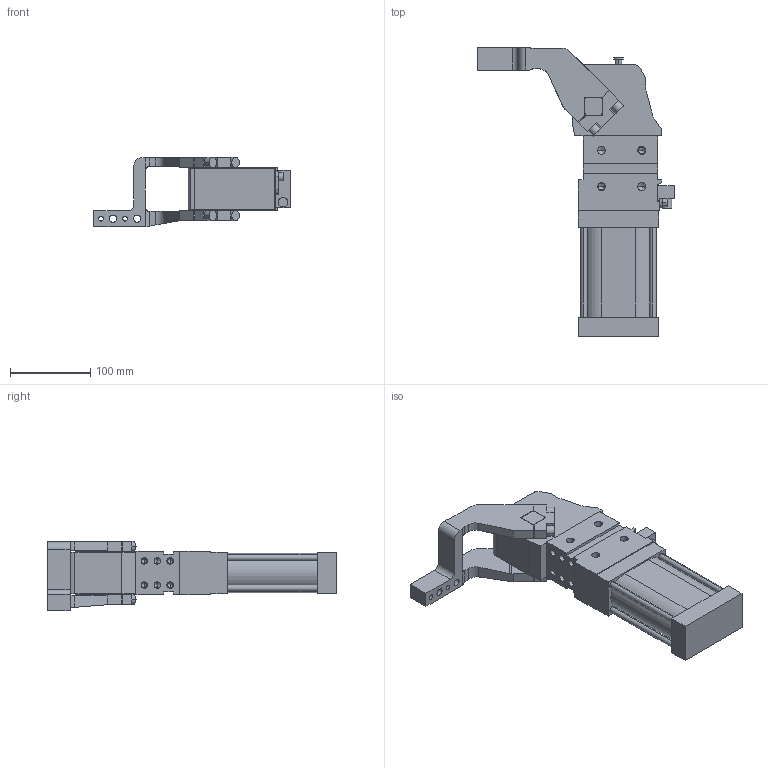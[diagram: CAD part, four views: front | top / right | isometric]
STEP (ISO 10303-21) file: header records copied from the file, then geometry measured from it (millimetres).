
FILE_DESCRIPTION (( 'STEP AP214' ), '1' );
FILE_NAME ('cpl63v3di1g_135.STEP', '2023-01-26T10:41:59', ( '' ), ( '' ), 'SwSTEP 2.0', 'SolidWorks 2022', '' );
FILE_SCHEMA (( 'AUTOMOTIVE_DESIGN' ));
Length unit declared in the file: millimetre
Products named in the file (4): cpl63v3di1g_135; leva_dx_offset_45_cpl63; blocchetto_VEP_0; meccanica_cpl_63
Assembly tree (3 placements, depth 2):
  cpl63v3di1g_135
    meccanica_cpl_63
    blocchetto_VEP_0
    leva_dx_offset_45_cpl63
Bounding box: 244.5 x 359.5 x 86.5 mm (x, y, z)
Volume: 1808644.9 mm3; surface area: 193743.5 mm2
Topology: 3 solids, 3 shells, 398 faces, 1043 edges, 643 vertices
Faces by surface type: plane 200, cylinder 148, cone 50
Entity records: 13503 total; most frequent: CARTESIAN_POINT 2144, DIRECTION 2114, ORIENTED_EDGE 1994, EDGE_CURVE 997, AXIS2_PLACEMENT_3D 727, LINE 660, VECTOR 660, VERTEX_POINT 643
